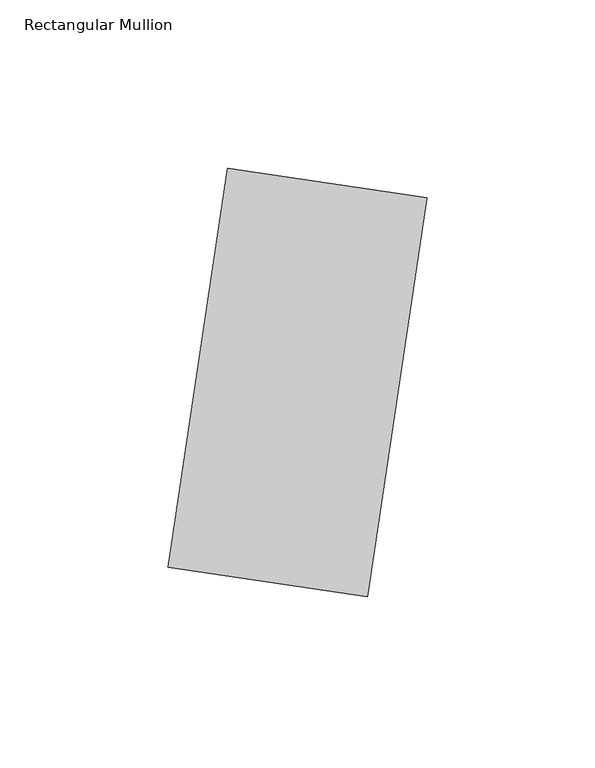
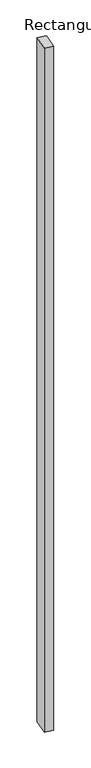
"""IFC4 building model written with IfcOpenShell, lengths in millimetres: member geometry, Rectangular Mullion : TERÇA 6x12 cm."""

from ifc_helpers import new_model, si_unit, frame, origin, place, context, project, spatial, polyline, outline, extrude, source, transform, mapped, element, save


def rectangular_mullion_08a9c001(model_context):
    return source(origin(), model_context, "Body", "SweptSolid", [
        extrude(outline(polyline([(-29.6680906, 4.4502136), (-11.8672362, 123.1225759), (47.4689449, 114.2221488), (29.6680906, -4.4502136), (-29.6680906, 4.4502136)])), frame((0.0, 0.0, -5100.0), z_axis=(0.0, 0.0, 1.0), x_axis=(1.0, 0.0, 0.0)), (0.0, 0.0, 1.0), 5100.0),
    ])


if __name__ == "__main__":
    model = new_model("IFC4")
    model_context = context("Model", 3, world=origin())
    ifc_project = project(units=[si_unit("LENGTHUNIT", "METRE", prefix="MILLI")], contexts=[model_context])
    site = spatial("IfcSite", under=ifc_project)
    building = spatial("IfcBuilding", under=site)
    placement = place(None, origin())
    rectangular_mullion_shape = rectangular_mullion_08a9c001(model_context)
    element("IfcMember", 1, ObjectType="Rectangular Mullion : TERÇA 6x12 cm", at=placement, inside=building, context=model_context, shape_type="MappedRepresentation", body=[
        mapped(rectangular_mullion_shape, transform((0.0, 0.0, 0.0), x_axis=(1.0, 0.0, 0.0), y_axis=(0.0, 1.0, 0.0), z_axis=(0.0, 0.0, 1.0))),
    ])
    save(model, "model.ifc")
